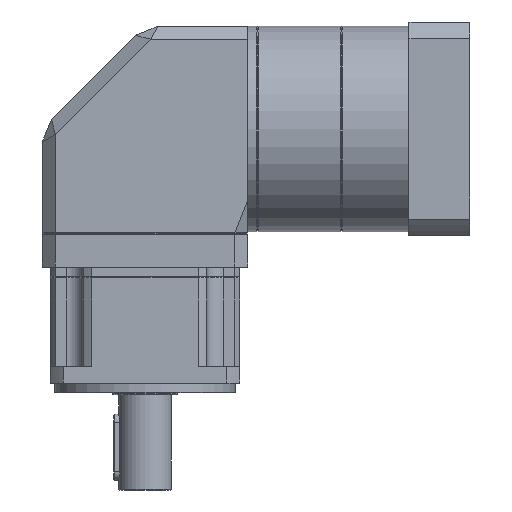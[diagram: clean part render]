
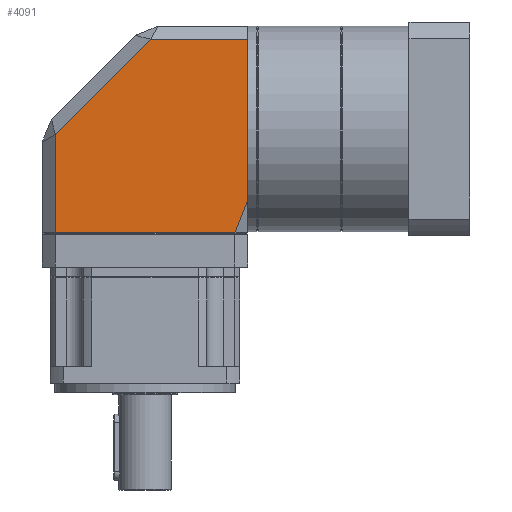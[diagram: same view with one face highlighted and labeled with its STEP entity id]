
A CAD part, left-side view. The second image highlights one B-rep face of the part: STEP entity #4091.
In plain terms, the highlighted planar face has unit normal (-1, 0, 0).
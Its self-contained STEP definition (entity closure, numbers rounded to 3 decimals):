
#101=PLANE('',#4582);
#462=FACE_OUTER_BOUND('',#728,.T.);
#728=EDGE_LOOP('',(#3640,#3641,#3642,#3643,#3644,#3645,#3646));
#859=LINE('',#6482,#1202);
#864=LINE('',#6492,#1207);
#1062=LINE('',#7147,#1405);
#1063=LINE('',#7149,#1406);
#1064=LINE('',#7150,#1407);
#1065=LINE('',#7152,#1408);
#1066=LINE('',#7153,#1409);
#1202=VECTOR('',#5109,1000.);
#1207=VECTOR('',#5116,1000.);
#1405=VECTOR('',#5756,1000.);
#1406=VECTOR('',#5757,1000.);
#1407=VECTOR('',#5758,1000.);
#1408=VECTOR('',#5759,1000.);
#1409=VECTOR('',#5760,1000.);
#1790=VERTEX_POINT('',#6227);
#1873=VERTEX_POINT('',#6480);
#1875=VERTEX_POINT('',#6485);
#2048=VERTEX_POINT('',#7145);
#2049=VERTEX_POINT('',#7146);
#2050=VERTEX_POINT('',#7148);
#2051=VERTEX_POINT('',#7151);
#2298=EDGE_CURVE('',#1873,#1790,#859,.T.);
#2303=EDGE_CURVE('',#1790,#1875,#864,.T.);
#2602=EDGE_CURVE('',#2048,#2049,#1062,.T.);
#2603=EDGE_CURVE('',#2049,#2050,#1063,.T.);
#2604=EDGE_CURVE('',#1875,#2050,#1064,.T.);
#2605=EDGE_CURVE('',#1873,#2051,#1065,.T.);
#2606=EDGE_CURVE('',#2051,#2048,#1066,.T.);
#3640=ORIENTED_EDGE('',*,*,#2602,.T.);
#3641=ORIENTED_EDGE('',*,*,#2603,.T.);
#3642=ORIENTED_EDGE('',*,*,#2604,.F.);
#3643=ORIENTED_EDGE('',*,*,#2303,.F.);
#3644=ORIENTED_EDGE('',*,*,#2298,.F.);
#3645=ORIENTED_EDGE('',*,*,#2605,.T.);
#3646=ORIENTED_EDGE('',*,*,#2606,.T.);
#4091=ADVANCED_FACE('',(#462),#101,.F.);
#4582=AXIS2_PLACEMENT_3D('',#7144,#5754,#5755);
#5109=DIRECTION('',(0.,0.,-1.));
#5116=DIRECTION('',(0.,0.,-1.));
#5754=DIRECTION('center_axis',(1.,0.,0.));
#5755=DIRECTION('ref_axis',(0.,0.,-1.));
#5756=DIRECTION('',(0.,0.,-1.));
#5757=DIRECTION('',(0.,-1.,0.));
#5758=DIRECTION('',(0.,0.371,-0.928));
#5759=DIRECTION('',(0.,1.,0.));
#5760=DIRECTION('',(0.,0.707,-0.707));
#6227=CARTESIAN_POINT('',(-62.5,-62.5,154.5));
#6480=CARTESIAN_POINT('',(-62.5,-62.5,209.));
#6482=CARTESIAN_POINT('',(-62.5,-62.5,217.));
#6485=CARTESIAN_POINT('',(-62.5,-62.5,111.));
#6492=CARTESIAN_POINT('',(-62.5,-62.5,217.));
#7144=CARTESIAN_POINT('Origin',(-62.5,62.5,217.));
#7145=CARTESIAN_POINT('',(-62.5,54.5,151.186));
#7146=CARTESIAN_POINT('',(-62.5,54.5,91.5));
#7147=CARTESIAN_POINT('',(-62.5,54.5,217.));
#7148=CARTESIAN_POINT('',(-62.5,-54.7,91.5));
#7149=CARTESIAN_POINT('',(-62.5,62.5,91.5));
#7150=CARTESIAN_POINT('',(-62.5,-81.81,159.276));
#7151=CARTESIAN_POINT('',(-62.5,-3.314,209.));
#7152=CARTESIAN_POINT('',(-62.5,0.,209.));
#7153=CARTESIAN_POINT('',(-62.5,56.843,148.843));
